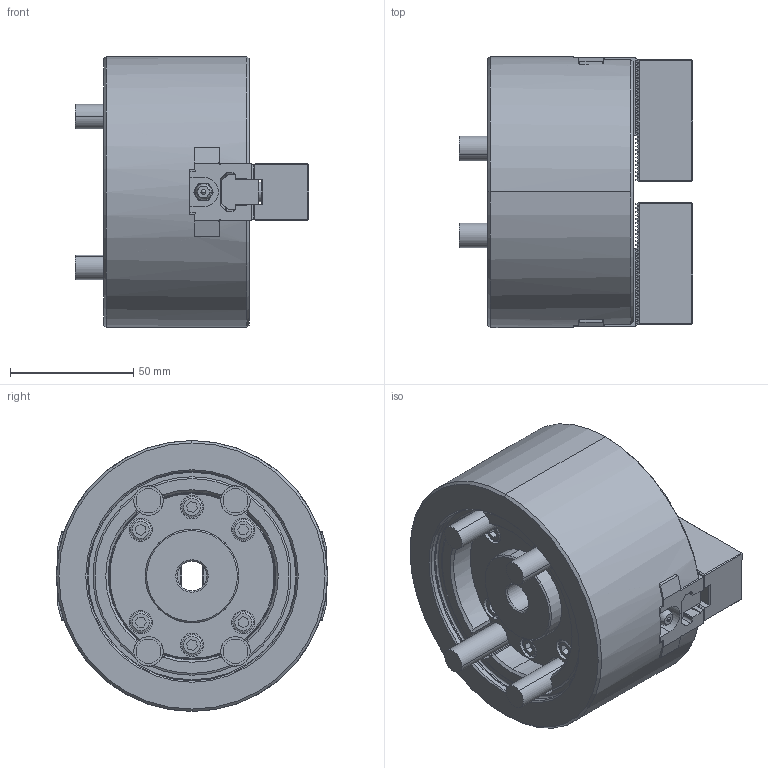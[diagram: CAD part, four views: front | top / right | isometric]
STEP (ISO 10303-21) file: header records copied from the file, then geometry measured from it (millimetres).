
FILE_DESCRIPTION (( 'STEP AP214' ), '1' );
FILE_NAME ('BT204_61P327187-6_UC.STEP', '2020-12-09T02:59:52', ( '' ), ( '' ), 'SwSTEP 2.0', 'SolidWorks 2017', '' );
FILE_SCHEMA (( 'AUTOMOTIVE_DESIGN' ));
Length unit declared in the file: millimetre
Products named in the file (14): 61P423612-4_SOFT JAW; Bアナツキ M8×20; 61P422113-1_T僫僢僩; BT204_BASE^61P327186-6_BT204 ASSY; BT204_61P327187-6_UC
Assembly tree (9 placements, depth 2):
  61P423612-4_SOFT JAW
  Bアナツキ M8×20
  Bアナツキ M8×20
  Bアナツキ M8×20
  Bアナツキ M8×20
Bounding box: 94.7 x 110 x 110 mm (x, y, z)
Volume: 522978 mm3; surface area: 102773.2 mm2
Topology: 9 solids, 17 shells, 2328 faces, 6445 edges, 4236 vertices
Faces by surface type: plane 1598, cylinder 484, cone 110, bspline 90, torus 38, sphere 8
Entity records: 65230 total; most frequent: CARTESIAN_POINT 15764, ORIENTED_EDGE 10746, DIRECTION 9507, EDGE_CURVE 5373, LINE 3961, VECTOR 3961, VERTEX_POINT 3532, AXIS2_PLACEMENT_3D 2773
